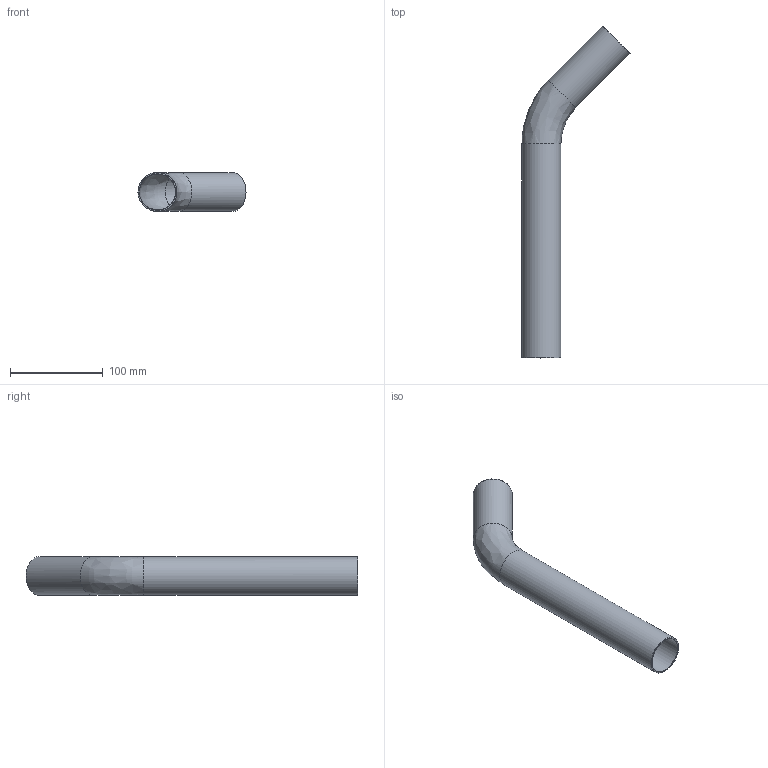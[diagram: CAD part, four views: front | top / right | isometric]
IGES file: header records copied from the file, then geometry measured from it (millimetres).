
Global section: file name: C73AH; native system: Autodesk Inventor 2023; preprocessor: unknown; author: lvalentini; date: 20230921.120729; units: millimetre
Bounding box: 116.38 x 357.38 x 42 mm (x, y, z)
Volume: 71490 mm3; surface area: 95302 mm2
Topology: 1 solids, 1 shells, 12 faces, 26 edges, 16 vertices
Faces by surface type: bspline 12
